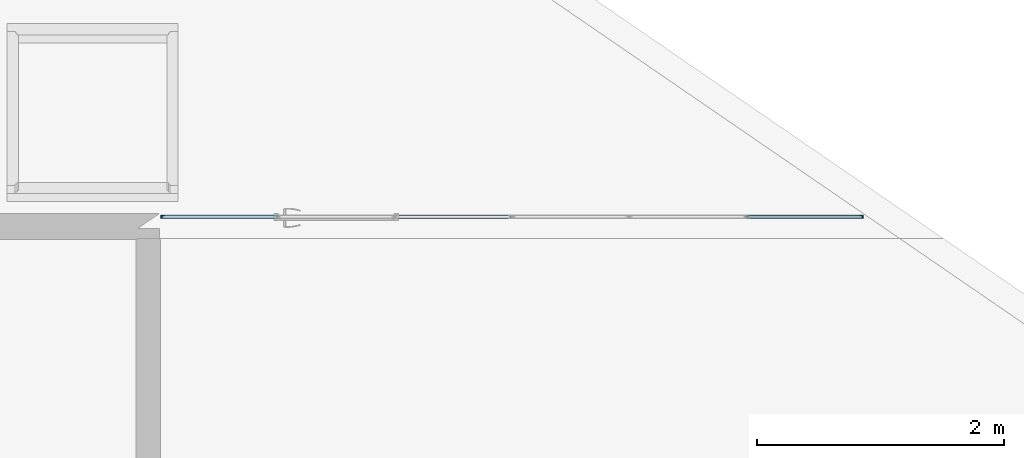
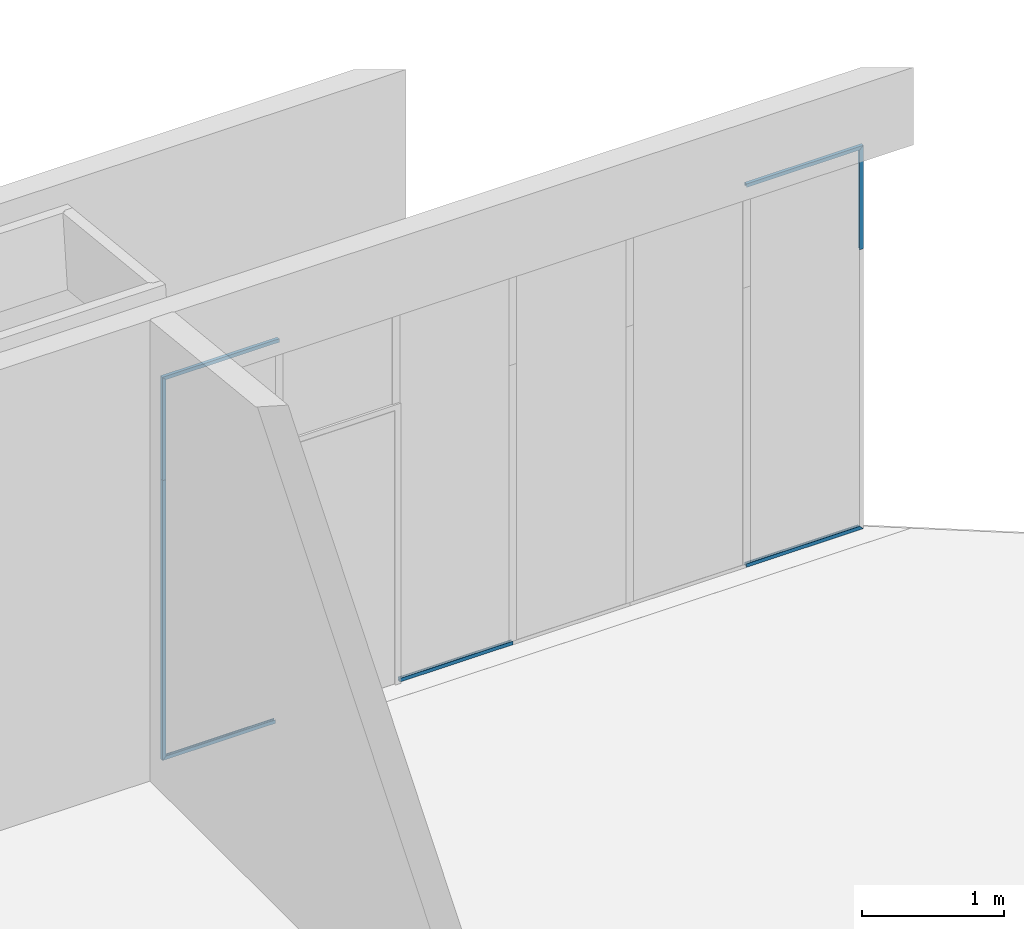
# One storey, part 3 of 23: 8 members, 1 element without a shape of its own.
"""IFC2X3 building model written with IfcOpenShell, lengths in millimetres."""

from ifc_helpers import new_model, entity, si_unit, converted_unit, derived_unit, money_unit, direction, frame, origin_with_axes, place, context, subcontext, project, spatial, faceted_brep, material, material_list, type_object, element, aggregate, save


model = new_model("IFC2X3")

# Units and contexts
model_context = context("Model", 3, precision=0.01, world=origin_with_axes(), true_north=direction((0.0, 1.0)))
body_context = subcontext(model_context, "Body", "Model", "MODEL_VIEW")
ifc_project = project(units=[si_unit("LENGTHUNIT", "METRE", prefix="MILLI"), si_unit("AREAUNIT", "SQUARE_METRE"), si_unit("VOLUMEUNIT", "CUBIC_METRE"), converted_unit("PLANEANGLEUNIT", "DEGREE", entity("IfcPlaneAngleMeasure", 0.0174532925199), si_unit("PLANEANGLEUNIT", "RADIAN"), dimensions=[0, 0, 0, 0, 0, 0, 0]), si_unit("SOLIDANGLEUNIT", "STERADIAN"), money_unit("EUR"), converted_unit("TIMEUNIT", "Year", entity("IfcTimeMeasure", 31556926.0), si_unit("TIMEUNIT", "SECOND"), dimensions=[0, 0, 1, 0, 0, 0, 0]), si_unit("MASSUNIT", "GRAM", prefix="KILO"), si_unit("THERMODYNAMICTEMPERATUREUNIT", "DEGREE_CELSIUS"), si_unit("LUMINOUSINTENSITYUNIT", "LUMEN"), si_unit("ENERGYUNIT", "JOULE", prefix="MEGA"), derived_unit("THERMALCONDUCTANCEUNIT", [(si_unit("POWERUNIT", "WATT"), 1), (si_unit("LENGTHUNIT", "METRE"), -1), (si_unit("THERMODYNAMICTEMPERATUREUNIT", "KELVIN"), -1)]), derived_unit("SPECIFICHEATCAPACITYUNIT", [(si_unit("ENERGYUNIT", "JOULE"), 1), (si_unit("MASSUNIT", "GRAM", prefix="KILO"), -1), (si_unit("THERMODYNAMICTEMPERATUREUNIT", "KELVIN"), -1)]), derived_unit("MASSDENSITYUNIT", [(si_unit("MASSUNIT", "GRAM", prefix="KILO"), 1), (si_unit("VOLUMEUNIT", "CUBIC_METRE"), -1)])], contexts=[model_context])

# Site, building, storey
site_placement = place(None, origin_with_axes())
site = spatial("IfcSite", under=ifc_project, at=site_placement, Name="L.Koidula tn 11b", CompositionType="ELEMENT")
building_placement = place(site_placement, origin_with_axes())
building = spatial("IfcBuilding", under=site, at=building_placement, Name="Rakvere Riigigümnaasium", CompositionType="ELEMENT")
storey_placement = place(building_placement, frame((0.0, 0.0, 7440.0), z_axis=(0.0, 0.0, 1.0), x_axis=(1.0, 0.0, 0.0)))
storey = spatial("IfcBuildingStorey", under=building, at=storey_placement, Name="3.korrus +7,44", CompositionType="ELEMENT", Elevation=7440.0)

# Curtain wall, members
curtain_wall_type = type_object("IfcCurtainWallType", Name="Curtain Wall Type", PredefinedType="NOTDEFINED")
curtain_wall_placement = place(storey_placement, frame((90131.4965427, 13261.4543717, 0.0), z_axis=(0.0, 0.0, 1.0), x_axis=(1.0, 0.0, 0.0)))
curtain_wall = element("IfcCurtainWall", 1, at=curtain_wall_placement, inside=storey, type_object=curtain_wall_type, Name="SKLF-30")
ifc_material_1 = material(Name="Klaasvill")
ifc_material_2 = material(Name="Teras RAL7012")
ifc_material_list = material_list([ifc_material_1, ifc_material_2])
member_type = type_object("IfcMemberType", Name="Boundary Frame 30 x 15", PredefinedType="MULLION")
member_1_placement = place(curtain_wall_placement, frame((1420.5, 0.0, 0.0), z_axis=(-1.0, 0.0, 0.0), x_axis=(0.0, 0.0, 1.0)))
member_1 = element("IfcMember", 2, at=member_1_placement, type_object=member_type, material=ifc_material_list, Name="P-SKLF-18-raam", ObjectType="MULLION", context=body_context, shape_type="Brep", body=[
    faceted_brep([(8.35001923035, -16.999999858, 8.35001923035), (8.35001923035, -16.999999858, 947.0), (2.00001916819, -16.999999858, 947.0), (2.00001916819, -16.999999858, 2.00001916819), (8.35001923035, 3.01614428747, 8.35001923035), (8.35001923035, 3.01614428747, 947.0), (2.00001916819, 3.01614428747, 947.0), (2.00001916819, 3.01614428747, 2.00001916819)], [[[0, 1, 2, 3]], [[4, 5, 1, 0]], [[2, 1, 5, 6]], [[3, 2, 6, 7]], [[3, 7, 4, 0]], [[7, 6, 5, 4]]]),
    faceted_brep([(25.004489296, 1.03075035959, 25.004489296), (25.004489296, 1.03075035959, 947.0), (24.987414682, 3.01614444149, 947.0), (24.987414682, 3.01614444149, 24.987414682), (25.742237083, 0.293002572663, 25.742237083), (25.742237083, 0.293002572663, 947.0), (26.7500193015, 0.0229681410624, 947.0), (27.75780152, 0.293002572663, 947.0), (28.4955493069, 1.03075035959, 947.0), (28.7655837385, 2.03853257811, 947.0), (28.5126239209, 3.01614444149, 947.0), (28.5126239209, 3.01614444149, 28.5126239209), (28.7655837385, 2.03853257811, 28.7655837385), (28.4955493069, 1.03075035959, 28.4955493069), (27.75780152, 0.293002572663, 27.75780152), (26.7500193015, 0.0229681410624, 26.7500193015)], [[[0, 1, 2, 3]], [[4, 5, 1, 0]], [[2, 1, 5, 6, 7, 8, 9, 10]], [[3, 2, 10, 11]], [[3, 11, 12, 13, 14, 15, 4, 0]], [[15, 6, 5, 4]], [[14, 7, 6, 15]], [[13, 8, 7, 14]], [[12, 9, 8, 13]], [[11, 10, 9, 12]]]),
    faceted_brep([(30.0000193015, -20.0, 30.0000193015), (30.0000193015, -20.0, 947.0), (0.0, -20.0, 947.0), (0.0, -20.0, 0.0), (30.0000193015, -17.0, 30.0000193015), (30.0000193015, -17.0, 947.0), (8.35001923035, -16.999999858, 947.0), (2.00001930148, -17.0, 947.0), (2.00001930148, 3.01614444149, 947.0), (8.35001923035, 3.01614428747, 947.0), (24.987414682, 3.01614444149, 947.0), (28.5126239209, 3.01614444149, 947.0), (30.0000193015, 3.01614444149, 947.0), (30.0000193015, 6.0, 947.0), (0.0, 6.0, 947.0), (0.0, 6.0, 0.0), (30.0000193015, 6.0, 30.0000193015), (30.0000193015, 3.01614444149, 30.0000193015), (28.5126239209, 3.01614444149, 28.5126239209), (24.987414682, 3.01614444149, 24.987414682), (8.35001923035, 3.01614428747, 8.35001923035), (2.00001930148, 3.01614444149, 2.00001930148), (2.00001930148, -17.0, 2.00001930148), (8.35001923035, -16.999999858, 8.35001923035)], [[[0, 1, 2, 3]], [[4, 5, 1, 0]], [[2, 1, 5, 6, 7, 8, 9, 10, 11, 12, 13, 14]], [[3, 2, 14, 15]], [[3, 15, 16, 17, 18, 19, 20, 21, 22, 23, 4, 0]], [[23, 6, 5, 4]], [[22, 7, 6, 23]], [[21, 8, 7, 22]], [[20, 9, 8, 21]], [[19, 10, 9, 20]], [[18, 11, 10, 19]], [[17, 12, 11, 18]], [[16, 13, 12, 17]], [[15, 14, 13, 16]]]),
])
member_2_placement = place(curtain_wall_placement, frame((-3344.5, 0.0, 0.0), z_axis=(-1.0, 0.0, 0.0), x_axis=(0.0, 0.0, 1.0)))
member_2 = element("IfcMember", 3, at=member_2_placement, type_object=member_type, material=ifc_material_list, Name="P-SKLF-23-raam", ObjectType="MULLION", context=body_context, shape_type="Brep", body=[
    faceted_brep([(2.00001916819, -16.999999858, 0.0), (8.35001923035, -16.999999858, 0.0), (8.35001923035, -16.999999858, 908.64998077), (2.00001916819, -16.999999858, 914.999980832), (2.00001916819, 3.01614428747, 0.0), (8.35001923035, 3.01614428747, 0.0), (8.35001923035, 3.01614428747, 908.64998077), (2.00001916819, 3.01614428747, 914.999980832)], [[[0, 1, 2, 3]], [[0, 4, 5, 1]], [[1, 5, 6, 2]], [[3, 2, 6, 7]], [[4, 0, 3, 7]], [[5, 4, 7, 6]]]),
    faceted_brep([(24.987414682, 3.01614444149, 0.0), (25.004489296, 1.03075035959, 0.0), (25.004489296, 1.03075035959, 891.995510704), (24.987414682, 3.01614444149, 892.012585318), (28.5126239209, 3.01614444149, 0.0), (28.7655837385, 2.03853257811, 0.0), (28.4955493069, 1.03075035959, 0.0), (27.75780152, 0.293002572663, 0.0), (26.7500193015, 0.0229681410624, 0.0), (25.742237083, 0.293002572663, 0.0), (25.742237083, 0.293002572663, 891.257762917), (26.7500193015, 0.0229681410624, 890.249980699), (27.75780152, 0.293002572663, 889.24219848), (28.4955493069, 1.03075035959, 888.504450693), (28.7655837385, 2.03853257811, 888.234416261), (28.5126239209, 3.01614444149, 888.487376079)], [[[0, 1, 2, 3]], [[0, 4, 5, 6, 7, 8, 9, 1]], [[1, 9, 10, 2]], [[3, 2, 10, 11, 12, 13, 14, 15]], [[4, 0, 3, 15]], [[5, 4, 15, 14]], [[6, 5, 14, 13]], [[7, 6, 13, 12]], [[8, 7, 12, 11]], [[9, 8, 11, 10]]]),
    faceted_brep([(0.0, -20.0, 0.0), (30.0000193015, -20.0, 0.0), (30.0000193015, -20.0, 886.999980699), (0.0, -20.0, 917.0), (0.0, 6.0, 0.0), (30.0000193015, 6.0, 0.0), (30.0000193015, 3.01614444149, 0.0), (28.5126239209, 3.01614444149, 0.0), (24.987414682, 3.01614444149, 0.0), (8.35001923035, 3.01614428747, 0.0), (2.00001930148, 3.01614444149, 0.0), (2.00001930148, -17.0, 0.0), (8.35001923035, -16.999999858, 0.0), (30.0000193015, -17.0, 0.0), (30.0000193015, -17.0, 886.999980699), (8.35001923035, -16.999999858, 908.64998077), (2.00001930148, -17.0, 914.999980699), (2.00001930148, 3.01614444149, 914.999980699), (8.35001923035, 3.01614428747, 908.64998077), (24.987414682, 3.01614444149, 892.012585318), (28.5126239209, 3.01614444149, 888.487376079), (30.0000193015, 3.01614444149, 886.999980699), (30.0000193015, 6.0, 886.999980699), (0.0, 6.0, 917.0)], [[[0, 1, 2, 3]], [[0, 4, 5, 6, 7, 8, 9, 10, 11, 12, 13, 1]], [[1, 13, 14, 2]], [[3, 2, 14, 15, 16, 17, 18, 19, 20, 21, 22, 23]], [[4, 0, 3, 23]], [[5, 4, 23, 22]], [[6, 5, 22, 21]], [[7, 6, 21, 20]], [[8, 7, 20, 19]], [[9, 8, 19, 18]], [[10, 9, 18, 17]], [[11, 10, 17, 16]], [[12, 11, 16, 15]], [[13, 12, 15, 14]]]),
])
member_3_placement = place(curtain_wall_placement, frame((-4261.5, 0.0, 0.0), z_axis=(0.0, 0.0, 1.0), x_axis=(1.0, 0.0, 0.0)))
member_3 = element("IfcMember", 4, at=member_3_placement, type_object=member_type, material=ifc_material_list, Name="P-SKLF-24-raam", ObjectType="MULLION", context=body_context, shape_type="Brep", body=[
    faceted_brep([(8.35001923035, -16.999999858, 8.35001923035), (8.35001923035, -16.999999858, 2400.0), (2.00001916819, -16.999999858, 2400.0), (2.00001916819, -16.999999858, 2.00001916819), (8.35001923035, 3.01614428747, 8.35001923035), (8.35001923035, 3.01614428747, 2400.0), (2.00001916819, 3.01614428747, 2400.0), (2.00001916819, 3.01614428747, 2.00001916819)], [[[0, 1, 2, 3]], [[4, 5, 1, 0]], [[2, 1, 5, 6]], [[3, 2, 6, 7]], [[3, 7, 4, 0]], [[7, 6, 5, 4]]]),
    faceted_brep([(25.004489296, 1.03075035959, 25.004489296), (25.004489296, 1.03075035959, 2400.0), (24.987414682, 3.01614444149, 2400.0), (24.987414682, 3.01614444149, 24.987414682), (25.742237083, 0.293002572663, 25.742237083), (25.742237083, 0.293002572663, 2400.0), (26.7500193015, 0.0229681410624, 2400.0), (27.75780152, 0.293002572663, 2400.0), (28.4955493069, 1.03075035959, 2400.0), (28.7655837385, 2.03853257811, 2400.0), (28.5126239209, 3.01614444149, 2400.0), (28.5126239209, 3.01614444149, 28.5126239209), (28.7655837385, 2.03853257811, 28.7655837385), (28.4955493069, 1.03075035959, 28.4955493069), (27.75780152, 0.293002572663, 27.75780152), (26.7500193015, 0.0229681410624, 26.7500193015)], [[[0, 1, 2, 3]], [[4, 5, 1, 0]], [[2, 1, 5, 6, 7, 8, 9, 10]], [[3, 2, 10, 11]], [[3, 11, 12, 13, 14, 15, 4, 0]], [[15, 6, 5, 4]], [[14, 7, 6, 15]], [[13, 8, 7, 14]], [[12, 9, 8, 13]], [[11, 10, 9, 12]]]),
    faceted_brep([(30.0000193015, -20.0, 30.0000193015), (30.0000193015, -20.0, 2400.0), (0.0, -20.0, 2400.0), (0.0, -20.0, 0.0), (30.0000193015, -17.0, 30.0000193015), (30.0000193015, -17.0, 2400.0), (8.35001923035, -16.999999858, 2400.0), (2.00001930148, -17.0, 2400.0), (2.00001930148, 3.01614444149, 2400.0), (8.35001923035, 3.01614428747, 2400.0), (24.987414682, 3.01614444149, 2400.0), (28.5126239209, 3.01614444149, 2400.0), (30.0000193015, 3.01614444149, 2400.0), (30.0000193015, 6.0, 2400.0), (0.0, 6.0, 2400.0), (0.0, 6.0, 0.0), (30.0000193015, 6.0, 30.0000193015), (30.0000193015, 3.01614444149, 30.0000193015), (28.5126239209, 3.01614444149, 28.5126239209), (24.987414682, 3.01614444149, 24.987414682), (8.35001923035, 3.01614428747, 8.35001923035), (2.00001930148, 3.01614444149, 2.00001930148), (2.00001930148, -17.0, 2.00001930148), (8.35001923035, -16.999999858, 8.35001923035)], [[[0, 1, 2, 3]], [[4, 5, 1, 0]], [[2, 1, 5, 6, 7, 8, 9, 10, 11, 12, 13, 14]], [[3, 2, 14, 15]], [[3, 15, 16, 17, 18, 19, 20, 21, 22, 23, 4, 0]], [[23, 6, 5, 4]], [[22, 7, 6, 23]], [[21, 8, 7, 22]], [[20, 9, 8, 21]], [[19, 10, 9, 20]], [[18, 11, 10, 19]], [[17, 12, 11, 18]], [[16, 13, 12, 17]], [[15, 14, 13, 16]]]),
])
member_4_placement = place(curtain_wall_placement, frame((1420.5, 0.0, 3285.00006267), z_axis=(-1.0, 0.0, 0.0), x_axis=(0.0, 0.0, 1.0)))
member_4 = element("IfcMember", 5, at=member_4_placement, type_object=member_type, material=ifc_material_list, Name="P-SKLF-31-raam", ObjectType="MULLION", context=body_context, shape_type="Brep", body=[
    faceted_brep([(-8.35001923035, -16.999999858, 8.35001923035), (-2.00001916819, -16.999999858, 2.00001916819), (-2.00001916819, -16.999999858, 947.0), (-8.35001923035, -16.999999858, 947.0), (-8.35001923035, 3.01614428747, 8.35001923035), (-2.00001916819, 3.01614428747, 2.00001916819), (-2.00001916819, 3.01614428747, 947.0), (-8.35001923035, 3.01614428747, 947.0)], [[[0, 1, 2, 3]], [[1, 0, 4, 5]], [[1, 5, 6, 2]], [[2, 6, 7, 3]], [[4, 0, 3, 7]], [[5, 4, 7, 6]]]),
    faceted_brep([(-25.004489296, 1.03075035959, 25.004489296), (-24.987414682, 3.01614444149, 24.987414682), (-24.987414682, 3.01614444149, 947.0), (-25.004489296, 1.03075035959, 947.0), (-25.742237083, 0.293002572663, 25.742237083), (-26.7500193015, 0.0229681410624, 26.7500193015), (-27.75780152, 0.293002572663, 27.75780152), (-28.4955493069, 1.03075035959, 28.4955493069), (-28.7655837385, 2.03853257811, 28.7655837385), (-28.5126239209, 3.01614444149, 28.5126239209), (-28.5126239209, 3.01614444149, 947.0), (-28.7655837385, 2.03853257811, 947.0), (-28.4955493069, 1.03075035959, 947.0), (-27.75780152, 0.293002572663, 947.0), (-26.7500193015, 0.0229681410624, 947.0), (-25.742237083, 0.293002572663, 947.0)], [[[0, 1, 2, 3]], [[1, 0, 4, 5, 6, 7, 8, 9]], [[1, 9, 10, 2]], [[2, 10, 11, 12, 13, 14, 15, 3]], [[4, 0, 3, 15]], [[5, 4, 15, 14]], [[6, 5, 14, 13]], [[7, 6, 13, 12]], [[8, 7, 12, 11]], [[9, 8, 11, 10]]]),
    faceted_brep([(-30.0000193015, -20.0, 30.0000193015), (0.0, -20.0, 0.0), (0.0, -20.0, 947.0), (-30.0000193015, -20.0, 947.0), (-30.0000193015, -17.0, 30.0000193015), (-8.35001923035, -16.999999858, 8.35001923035), (-2.00001930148, -17.0, 2.00001930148), (-2.00001930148, 3.01614444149, 2.00001930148), (-8.35001923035, 3.01614428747, 8.35001923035), (-24.987414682, 3.01614444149, 24.987414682), (-28.5126239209, 3.01614444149, 28.5126239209), (-30.0000193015, 3.01614444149, 30.0000193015), (-30.0000193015, 6.0, 30.0000193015), (0.0, 6.0, 0.0), (0.0, 6.0, 947.0), (-30.0000193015, 6.0, 947.0), (-30.0000193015, 3.01614444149, 947.0), (-28.5126239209, 3.01614444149, 947.0), (-24.987414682, 3.01614444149, 947.0), (-8.35001923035, 3.01614428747, 947.0), (-2.00001930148, 3.01614444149, 947.0), (-2.00001930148, -17.0, 947.0), (-8.35001923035, -16.999999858, 947.0), (-30.0000193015, -17.0, 947.0)], [[[0, 1, 2, 3]], [[1, 0, 4, 5, 6, 7, 8, 9, 10, 11, 12, 13]], [[1, 13, 14, 2]], [[2, 14, 15, 16, 17, 18, 19, 20, 21, 22, 23, 3]], [[4, 0, 3, 23]], [[5, 4, 23, 22]], [[6, 5, 22, 21]], [[7, 6, 21, 20]], [[8, 7, 20, 19]], [[9, 8, 19, 18]], [[10, 9, 18, 17]], [[11, 10, 17, 16]], [[12, 11, 16, 15]], [[13, 12, 15, 14]]]),
])
member_5_placement = place(curtain_wall_placement, frame((1420.5, 0.0, 2400.0), z_axis=(0.0, 0.0, 1.0), x_axis=(1.0, 0.0, 0.0)))
member_5 = element("IfcMember", 6, at=member_5_placement, type_object=member_type, material=ifc_material_list, Name="P-SKLF-32-raam", ObjectType="MULLION", context=body_context, shape_type="Brep", body=[
    faceted_brep([(-2.00001916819, -16.999999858, 0.0), (-2.00001916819, -16.999999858, 883.000043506), (-8.35001923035, -16.999999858, 876.650043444), (-8.35001923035, -16.999999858, 0.0), (-2.00001916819, 3.01614428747, 0.0), (-2.00001916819, 3.01614428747, 883.000043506), (-8.35001923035, 3.01614428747, 876.650043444), (-8.35001923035, 3.01614428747, 0.0)], [[[0, 1, 2, 3]], [[4, 5, 1, 0]], [[1, 5, 6, 2]], [[3, 2, 6, 7]], [[0, 3, 7, 4]], [[7, 6, 5, 4]]]),
    faceted_brep([(-24.987414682, 3.01614444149, 0.0), (-24.987414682, 3.01614444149, 860.012647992), (-25.004489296, 1.03075035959, 859.995573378), (-25.004489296, 1.03075035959, 0.0), (-28.5126239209, 3.01614444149, 0.0), (-28.5126239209, 3.01614444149, 856.487438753), (-28.7655837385, 2.03853257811, 856.234478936), (-28.4955493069, 1.03075035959, 856.504513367), (-27.75780152, 0.293002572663, 857.242261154), (-26.7500193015, 0.0229681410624, 858.250043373), (-25.742237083, 0.293002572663, 859.257825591), (-25.742237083, 0.293002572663, 0.0), (-26.7500193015, 0.0229681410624, 0.0), (-27.75780152, 0.293002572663, 0.0), (-28.4955493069, 1.03075035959, 0.0), (-28.7655837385, 2.03853257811, 0.0)], [[[0, 1, 2, 3]], [[4, 5, 1, 0]], [[1, 5, 6, 7, 8, 9, 10, 2]], [[3, 2, 10, 11]], [[0, 3, 11, 12, 13, 14, 15, 4]], [[15, 6, 5, 4]], [[14, 7, 6, 15]], [[13, 8, 7, 14]], [[12, 9, 8, 13]], [[11, 10, 9, 12]]]),
    faceted_brep([(0.0, -20.0, 0.0), (0.0, -20.0, 885.000062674), (-30.0000193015, -20.0, 855.000043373), (-30.0000193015, -20.0, 0.0), (0.0, 6.0, 0.0), (0.0, 6.0, 885.000062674), (-30.0000193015, 6.0, 855.000043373), (-30.0000193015, 3.01614444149, 855.000043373), (-28.5126239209, 3.01614444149, 856.487438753), (-24.987414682, 3.01614444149, 860.012647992), (-8.35001923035, 3.01614428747, 876.650043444), (-2.00001930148, 3.01614444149, 883.000043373), (-2.00001930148, -17.0, 883.000043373), (-8.35001923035, -16.999999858, 876.650043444), (-30.0000193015, -17.0, 855.000043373), (-30.0000193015, -17.0, 0.0), (-8.35001923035, -16.999999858, 0.0), (-2.00001930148, -17.0, 0.0), (-2.00001930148, 3.01614444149, 0.0), (-8.35001923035, 3.01614428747, 0.0), (-24.987414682, 3.01614444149, 0.0), (-28.5126239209, 3.01614444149, 0.0), (-30.0000193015, 3.01614444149, 0.0), (-30.0000193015, 6.0, 0.0)], [[[0, 1, 2, 3]], [[4, 5, 1, 0]], [[1, 5, 6, 7, 8, 9, 10, 11, 12, 13, 14, 2]], [[3, 2, 14, 15]], [[0, 3, 15, 16, 17, 18, 19, 20, 21, 22, 23, 4]], [[23, 6, 5, 4]], [[22, 7, 6, 23]], [[21, 8, 7, 22]], [[20, 9, 8, 21]], [[19, 10, 9, 20]], [[18, 11, 10, 19]], [[17, 12, 11, 18]], [[16, 13, 12, 17]], [[15, 14, 13, 16]]]),
])
member_6_placement = place(curtain_wall_placement, frame((-4261.5, 0.0, 2400.0), z_axis=(0.0, 0.0, 1.0), x_axis=(1.0, 0.0, 0.0)))
member_6 = element("IfcMember", 7, at=member_6_placement, type_object=member_type, material=ifc_material_list, Name="P-SKLF-25-raam", ObjectType="MULLION", context=body_context, shape_type="Brep", body=[
    faceted_brep([(2.00001916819, -16.999999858, 0.0), (8.35001923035, -16.999999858, 0.0), (8.35001923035, -16.999999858, 876.650043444), (2.00001916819, -16.999999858, 883.000043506), (2.00001916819, 3.01614428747, 0.0), (8.35001923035, 3.01614428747, 0.0), (8.35001923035, 3.01614428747, 876.650043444), (2.00001916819, 3.01614428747, 883.000043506)], [[[0, 1, 2, 3]], [[0, 4, 5, 1]], [[1, 5, 6, 2]], [[3, 2, 6, 7]], [[4, 0, 3, 7]], [[5, 4, 7, 6]]]),
    faceted_brep([(24.987414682, 3.01614444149, 0.0), (25.004489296, 1.03075035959, 0.0), (25.004489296, 1.03075035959, 859.995573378), (24.987414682, 3.01614444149, 860.012647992), (28.5126239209, 3.01614444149, 0.0), (28.7655837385, 2.03853257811, 0.0), (28.4955493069, 1.03075035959, 0.0), (27.75780152, 0.293002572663, 0.0), (26.7500193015, 0.0229681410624, 0.0), (25.742237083, 0.293002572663, 0.0), (25.742237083, 0.293002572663, 859.257825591), (26.7500193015, 0.0229681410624, 858.250043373), (27.75780152, 0.293002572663, 857.242261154), (28.4955493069, 1.03075035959, 856.504513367), (28.7655837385, 2.03853257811, 856.234478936), (28.5126239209, 3.01614444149, 856.487438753)], [[[0, 1, 2, 3]], [[0, 4, 5, 6, 7, 8, 9, 1]], [[1, 9, 10, 2]], [[3, 2, 10, 11, 12, 13, 14, 15]], [[4, 0, 3, 15]], [[5, 4, 15, 14]], [[6, 5, 14, 13]], [[7, 6, 13, 12]], [[8, 7, 12, 11]], [[9, 8, 11, 10]]]),
    faceted_brep([(0.0, -20.0, 0.0), (30.0000193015, -20.0, 0.0), (30.0000193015, -20.0, 855.000043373), (0.0, -20.0, 885.000062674), (0.0, 6.0, 0.0), (30.0000193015, 6.0, 0.0), (30.0000193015, 3.01614444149, 0.0), (28.5126239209, 3.01614444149, 0.0), (24.987414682, 3.01614444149, 0.0), (8.35001923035, 3.01614428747, 0.0), (2.00001930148, 3.01614444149, 0.0), (2.00001930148, -17.0, 0.0), (8.35001923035, -16.999999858, 0.0), (30.0000193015, -17.0, 0.0), (30.0000193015, -17.0, 855.000043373), (8.35001923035, -16.999999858, 876.650043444), (2.00001930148, -17.0, 883.000043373), (2.00001930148, 3.01614444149, 883.000043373), (8.35001923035, 3.01614428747, 876.650043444), (24.987414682, 3.01614444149, 860.012647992), (28.5126239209, 3.01614444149, 856.487438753), (30.0000193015, 3.01614444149, 855.000043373), (30.0000193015, 6.0, 855.000043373), (0.0, 6.0, 885.000062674)], [[[0, 1, 2, 3]], [[0, 4, 5, 6, 7, 8, 9, 10, 11, 12, 13, 1]], [[1, 13, 14, 2]], [[3, 2, 14, 15, 16, 17, 18, 19, 20, 21, 22, 23]], [[4, 0, 3, 23]], [[5, 4, 23, 22]], [[6, 5, 22, 21]], [[7, 6, 21, 20]], [[8, 7, 20, 19]], [[9, 8, 19, 18]], [[10, 9, 18, 17]], [[11, 10, 17, 16]], [[12, 11, 16, 15]], [[13, 12, 15, 14]]]),
])
member_7_placement = place(curtain_wall_placement, frame((-1420.5, 0.0, 0.0), z_axis=(-1.0, 0.0, 0.0), x_axis=(0.0, 0.0, 1.0)))
member_7 = element("IfcMember", 8, at=member_7_placement, type_object=member_type, material=ifc_material_list, Name="P-SKLF-34-raam", ObjectType="MULLION", context=body_context, shape_type="Brep", body=[
    faceted_brep([(2.00001916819, -16.999999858, 0.0), (8.35001923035, -16.999999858, 0.0), (8.35001923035, -16.999999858, 917.00000657), (2.00001916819, -16.999999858, 917.00000657), (2.00001916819, 3.01614428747, 0.0), (8.35001923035, 3.01614428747, 0.0), (8.35001923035, 3.01614428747, 917.00000657), (2.00001916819, 3.01614428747, 917.00000657)], [[[0, 1, 2, 3]], [[0, 4, 5, 1]], [[1, 5, 6, 2]], [[3, 2, 6, 7]], [[4, 0, 3, 7]], [[5, 4, 7, 6]]]),
    faceted_brep([(24.987414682, 3.01614444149, 0.0), (25.004489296, 1.03075035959, 0.0), (25.004489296, 1.03075035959, 917.00000657), (24.987414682, 3.01614444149, 917.00000657), (28.5126239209, 3.01614444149, 0.0), (28.7655837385, 2.03853257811, 0.0), (28.4955493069, 1.03075035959, 0.0), (27.75780152, 0.293002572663, 0.0), (26.7500193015, 0.0229681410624, 0.0), (25.742237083, 0.293002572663, 0.0), (25.742237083, 0.293002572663, 917.00000657), (26.7500193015, 0.0229681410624, 917.00000657), (27.75780152, 0.293002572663, 917.00000657), (28.4955493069, 1.03075035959, 917.00000657), (28.7655837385, 2.03853257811, 917.00000657), (28.5126239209, 3.01614444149, 917.00000657)], [[[0, 1, 2, 3]], [[0, 4, 5, 6, 7, 8, 9, 1]], [[1, 9, 10, 2]], [[3, 2, 10, 11, 12, 13, 14, 15]], [[4, 0, 3, 15]], [[5, 4, 15, 14]], [[6, 5, 14, 13]], [[7, 6, 13, 12]], [[8, 7, 12, 11]], [[9, 8, 11, 10]]]),
    faceted_brep([(0.0, -20.0, 0.0), (30.0000193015, -20.0, 0.0), (30.0000193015, -20.0, 917.00000657), (0.0, -20.0, 917.00000657), (0.0, 6.0, 0.0), (30.0000193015, 6.0, 0.0), (30.0000193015, 3.01614444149, 0.0), (28.5126239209, 3.01614444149, 0.0), (24.987414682, 3.01614444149, 0.0), (8.35001923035, 3.01614428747, 0.0), (2.00001930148, 3.01614444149, 0.0), (2.00001930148, -17.0, 0.0), (8.35001923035, -16.999999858, 0.0), (30.0000193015, -17.0, 0.0), (30.0000193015, -17.0, 917.00000657), (8.35001923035, -16.999999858, 917.00000657), (2.00001930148, -17.0, 917.00000657), (2.00001930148, 3.01614444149, 917.00000657), (8.35001923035, 3.01614428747, 917.00000657), (24.987414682, 3.01614444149, 917.00000657), (28.5126239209, 3.01614444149, 917.00000657), (30.0000193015, 3.01614444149, 917.00000657), (30.0000193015, 6.0, 917.00000657), (0.0, 6.0, 917.00000657)], [[[0, 1, 2, 3]], [[0, 4, 5, 6, 7, 8, 9, 10, 11, 12, 13, 1]], [[1, 13, 14, 2]], [[3, 2, 14, 15, 16, 17, 18, 19, 20, 21, 22, 23]], [[4, 0, 3, 23]], [[5, 4, 23, 22]], [[6, 5, 22, 21]], [[7, 6, 21, 20]], [[8, 7, 20, 19]], [[9, 8, 19, 18]], [[10, 9, 18, 17]], [[11, 10, 17, 16]], [[12, 11, 16, 15]], [[13, 12, 15, 14]]]),
])
member_8_placement = place(curtain_wall_placement, frame((-3314.5, 0.0, 3285.00006267), z_axis=(-1.0, 0.0, 0.0), x_axis=(0.0, 0.0, 1.0)))
member_8 = element("IfcMember", 9, at=member_8_placement, type_object=member_type, material=ifc_material_list, Name="P-SKLF-37-raam", ObjectType="MULLION", context=body_context, shape_type="Brep", body=[
    faceted_brep([(-2.00001916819, -16.999999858, 0.0), (-2.00001916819, -16.999999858, 944.999980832), (-8.35001923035, -16.999999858, 938.64998077), (-8.35001923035, -16.999999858, 0.0), (-2.00001916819, 3.01614428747, 0.0), (-2.00001916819, 3.01614428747, 944.999980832), (-8.35001923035, 3.01614428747, 938.64998077), (-8.35001923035, 3.01614428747, 0.0)], [[[0, 1, 2, 3]], [[4, 5, 1, 0]], [[1, 5, 6, 2]], [[3, 2, 6, 7]], [[0, 3, 7, 4]], [[7, 6, 5, 4]]]),
    faceted_brep([(-24.987414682, 3.01614444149, 0.0), (-24.987414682, 3.01614444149, 922.012585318), (-25.004489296, 1.03075035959, 921.995510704), (-25.004489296, 1.03075035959, 0.0), (-28.5126239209, 3.01614444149, 0.0), (-28.5126239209, 3.01614444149, 918.487376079), (-28.7655837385, 2.03853257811, 918.234416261), (-28.4955493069, 1.03075035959, 918.504450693), (-27.75780152, 0.293002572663, 919.24219848), (-26.7500193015, 0.0229681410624, 920.249980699), (-25.742237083, 0.293002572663, 921.257762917), (-25.742237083, 0.293002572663, 0.0), (-26.7500193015, 0.0229681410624, 0.0), (-27.75780152, 0.293002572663, 0.0), (-28.4955493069, 1.03075035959, 0.0), (-28.7655837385, 2.03853257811, 0.0)], [[[0, 1, 2, 3]], [[4, 5, 1, 0]], [[1, 5, 6, 7, 8, 9, 10, 2]], [[3, 2, 10, 11]], [[0, 3, 11, 12, 13, 14, 15, 4]], [[15, 6, 5, 4]], [[14, 7, 6, 15]], [[13, 8, 7, 14]], [[12, 9, 8, 13]], [[11, 10, 9, 12]]]),
    faceted_brep([(0.0, -20.0, 0.0), (0.0, -20.0, 947.0), (-30.0000193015, -20.0, 916.999980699), (-30.0000193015, -20.0, 0.0), (0.0, 6.0, 0.0), (0.0, 6.0, 947.0), (-30.0000193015, 6.0, 916.999980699), (-30.0000193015, 3.01614444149, 916.999980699), (-28.5126239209, 3.01614444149, 918.487376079), (-24.987414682, 3.01614444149, 922.012585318), (-8.35001923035, 3.01614428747, 938.64998077), (-2.00001930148, 3.01614444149, 944.999980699), (-2.00001930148, -17.0, 944.999980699), (-8.35001923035, -16.999999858, 938.64998077), (-30.0000193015, -17.0, 916.999980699), (-30.0000193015, -17.0, 0.0), (-8.35001923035, -16.999999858, 0.0), (-2.00001930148, -17.0, 0.0), (-2.00001930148, 3.01614444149, 0.0), (-8.35001923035, 3.01614428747, 0.0), (-24.987414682, 3.01614444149, 0.0), (-28.5126239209, 3.01614444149, 0.0), (-30.0000193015, 3.01614444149, 0.0), (-30.0000193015, 6.0, 0.0)], [[[0, 1, 2, 3]], [[4, 5, 1, 0]], [[1, 5, 6, 7, 8, 9, 10, 11, 12, 13, 14, 2]], [[3, 2, 14, 15]], [[0, 3, 15, 16, 17, 18, 19, 20, 21, 22, 23, 4]], [[23, 6, 5, 4]], [[22, 7, 6, 23]], [[21, 8, 7, 22]], [[20, 9, 8, 21]], [[19, 10, 9, 20]], [[18, 11, 10, 19]], [[17, 12, 11, 18]], [[16, 13, 12, 17]], [[15, 14, 13, 16]]]),
])
aggregate(curtain_wall, [member_1, member_2, member_3, member_4, member_5, member_6, member_7, member_8])

save(model, "model.ifc")
